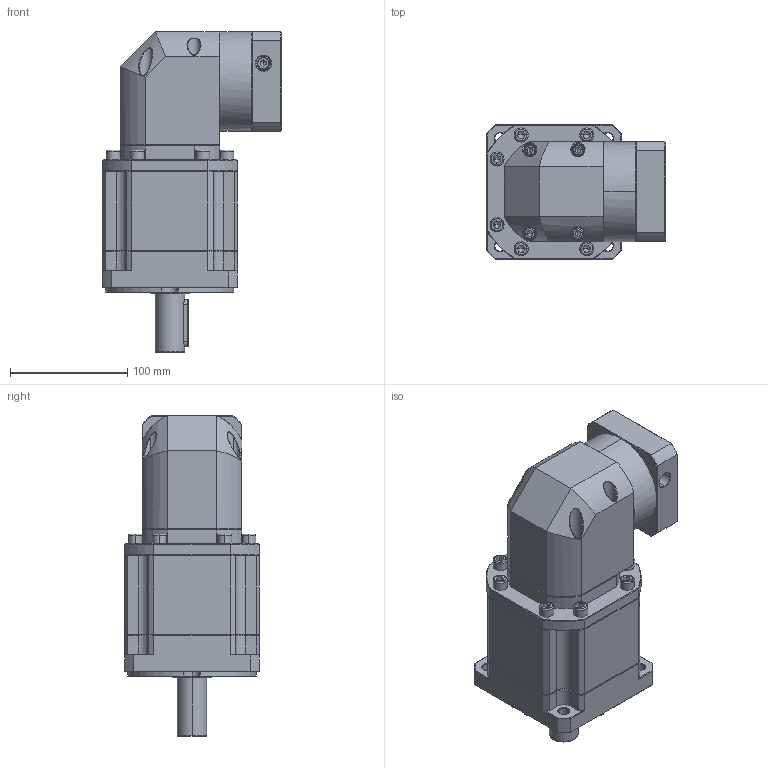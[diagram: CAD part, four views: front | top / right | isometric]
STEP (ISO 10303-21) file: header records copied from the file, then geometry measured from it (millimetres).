
FILE_DESCRIPTION (( 'STEP AP214' ), '1' );
FILE_NAME ('ZBR115A-D25-L3-P2-19-70-90-M5.step', '2023-08-26T13:33:35', ( '' ), ( '' ), 'SwSTEP 2.0', 'SolidWorks 2016', '' );
FILE_SCHEMA (( 'AUTOMOTIVE_DESIGN' ));
Length unit declared in the file: millimetre
Products named in the file (1): ZBR115A-D25-L3-P2-19-70-90-M5
Bounding box: 152.6 x 115 x 273.5 mm (x, y, z)
Volume: 2269276.5 mm3; surface area: 188270.8 mm2
Topology: 6 solids, 6 shells, 2594 faces, 6712 edges, 4227 vertices
Faces by surface type: plane 1281, cylinder 476, bspline 451, cone 372, torus 14
Entity records: 137103 total; most frequent: CARTESIAN_POINT 49156, ORIENTED_EDGE 13316, DIRECTION 10684, EDGE_CURVE 6658, LINE 4280, VECTOR 4280, VERTEX_POINT 4227, AXIS2_PLACEMENT_3D 3202
